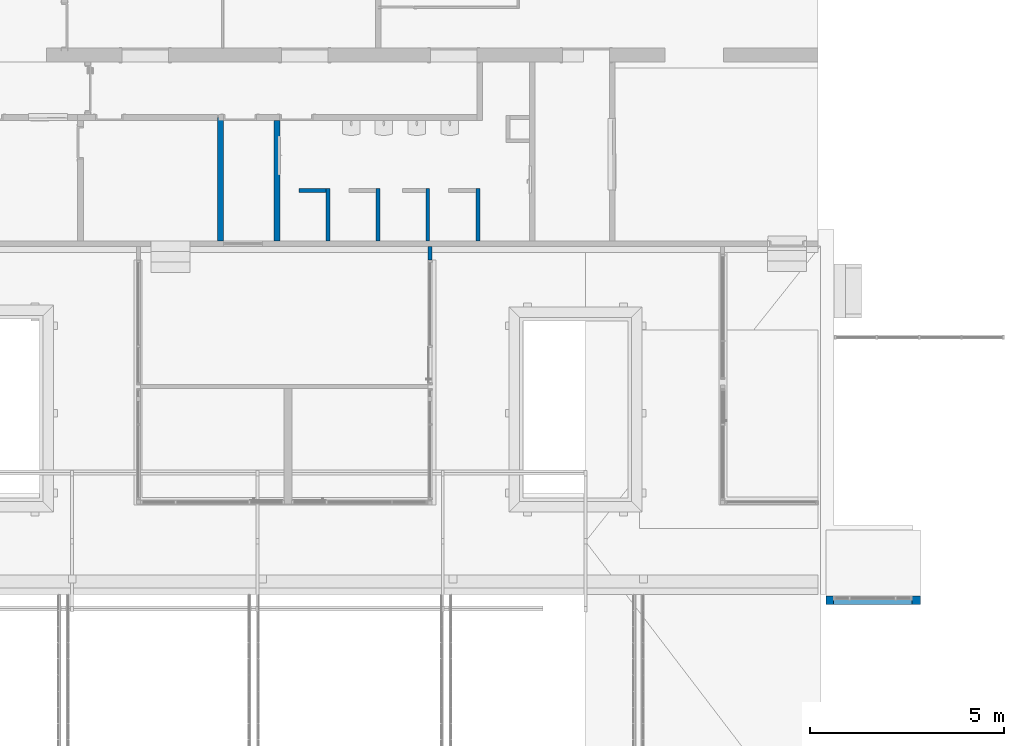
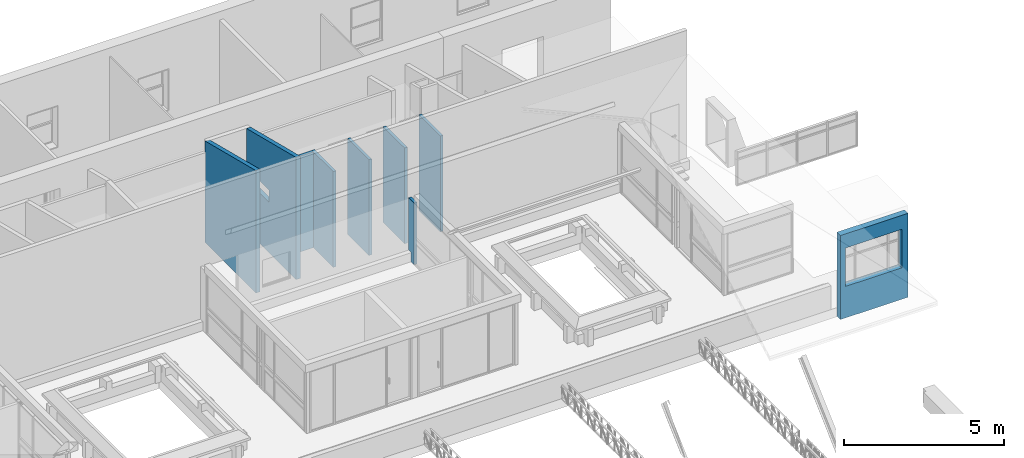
# One storey, part 143 of 153: 9 walls, 2 openings.
"""IFC4 building model written with IfcOpenShell, lengths in metres."""

import ifcopenshell
import ifcopenshell.guid

model = None  # the IFC model being written
_history = None  # IfcOwnerHistory: only IFC2X3 demands one
_inside = {}  # id of a spatial element -> (the spatial element, [elements in it])
_under = {}  # id of a project, library or spatial element -> (it, [spatial elements below it])
_declared = {}  # id of a project -> (the project, [libraries it declares])
_typed = {}  # id of a type object -> (the type object, [elements of that type])
_made_of = {}  # id of a material, layer set ... -> (it, [elements and type objects made of it])


def new_model(schema):
    """Start an empty IFC model of exactly this schema.

    Asked for "IFC4X3", IfcOpenShell would pick the latest addendum, in which some entities
    have other attributes; the version numbers below select the first issue.
    IFC2X3 requires an IfcOwnerHistory on every rooted entity: one is made here for all.
    """
    global model, _history
    if schema == "IFC4X3":
        model = ifcopenshell.file(schema_version=(4, 3, 0, 0))
    else:
        model = ifcopenshell.file(schema=schema)
    _inside.clear()
    _under.clear()
    _declared.clear()
    _typed.clear()
    _made_of.clear()
    _history = None
    if model.schema == "IFC2X3":
        org = make("IfcOrganization", Name="unknown")
        user = make(
            "IfcPersonAndOrganization",
            ThePerson=make("IfcPerson", FamilyName="unknown"),
            TheOrganization=org,
        )
        app = make(
            "IfcApplication",
            ApplicationDeveloper=org,
            Version="unknown",
            ApplicationFullName="unknown",
            ApplicationIdentifier="unknown",
        )
        _history = make(
            "IfcOwnerHistory",
            OwningUser=user,
            OwningApplication=app,
            ChangeAction="ADDED",
            CreationDate=0,
        )
    return model


def make(cls, **values):
    """One entity of the class cls with the attributes given. An attribute that is None is left unset."""
    return model.create_entity(
        cls, **{name: value for name, value in values.items() if value is not None}
    )


def entity(cls, *values):
    """Any entity or typed value of the class cls, its attributes in the order of the schema. None: left unset."""
    e = model.create_entity(cls)
    for i, value in enumerate(values):
        if value is not None:
            e[i] = value
    return e


def rooted(cls, **values):
    """An entity with a GlobalId (a new one), such as an element, a storey or a relation."""
    return make(cls, GlobalId=ifcopenshell.guid.new(), OwnerHistory=_history, **values)


def si_unit(unit_type, name, prefix=None):
    """IfcSIUnit, for example si_unit("LENGTHUNIT", "METRE", prefix="MILLI")."""
    return make("IfcSIUnit", UnitType=unit_type, Prefix=prefix, Name=name)


def converted_unit(unit_type, name, factor, base, dimensions=None, offset=None):
    """IfcConversionBasedUnit, such as the inch: factor (a typed value) times the base unit."""
    return make(
        "IfcConversionBasedUnit"
        if offset is None
        else "IfcConversionBasedUnitWithOffset",
        ConversionOffset=offset,
        Dimensions=None
        if dimensions is None
        else entity("IfcDimensionalExponents", *dimensions),
        UnitType=unit_type,
        Name=name,
        ConversionFactor=make(
            "IfcMeasureWithUnit", ValueComponent=factor, UnitComponent=base
        ),
    )


def derived_unit(unit_type, elements):
    """IfcDerivedUnit: a product of units, each with its exponent."""
    return make(
        "IfcDerivedUnit",
        Elements=[
            make("IfcDerivedUnitElement", Unit=unit, Exponent=power)
            for unit, power in elements
        ],
        UnitType=unit_type,
    )


def assignment(units):
    """IfcUnitAssignment: the units of a project."""
    return None if units is None else make("IfcUnitAssignment", Units=units)


def point(xyz):
    """IfcCartesianPoint."""
    return None if xyz is None else make("IfcCartesianPoint", Coordinates=xyz)


def direction(xyz):
    """IfcDirection."""
    return None if xyz is None else make("IfcDirection", DirectionRatios=xyz)


def frame(location, z_axis=None, x_axis=None):
    """IfcAxis2Placement3D, a coordinate frame: its origin and axes. An axis left out is left unset."""
    return make(
        "IfcAxis2Placement3D",
        Location=point(location),
        Axis=direction(z_axis),
        RefDirection=direction(x_axis),
    )


def origin():
    """The frame at (0, 0, 0) with its axes left unset."""
    return frame((0.0, 0.0, 0.0))


def place(relative_to, where):
    """IfcLocalPlacement: puts the frame where relative to a parent placement (None: the world)."""
    return make(
        "IfcLocalPlacement", PlacementRelTo=relative_to, RelativePlacement=where
    )


def context(
    kind, dimensions, precision=None, world=None, true_north=None, identifier=None
):
    """IfcGeometricRepresentationContext, for example the 3D "Model" context."""
    return make(
        "IfcGeometricRepresentationContext",
        ContextIdentifier=identifier,
        ContextType=kind,
        CoordinateSpaceDimension=dimensions,
        Precision=precision,
        WorldCoordinateSystem=world,
        TrueNorth=true_north,
    )


def subcontext(parent, identifier, kind, view, scale=None):
    """IfcGeometricRepresentationSubContext, for example "Body" below "Model"."""
    return make(
        "IfcGeometricRepresentationSubContext",
        ContextIdentifier=identifier,
        ContextType=kind,
        ParentContext=parent,
        TargetScale=scale,
        TargetView=view,
    )


def project(units=None, contexts=None):
    """IfcProject with its units and contexts."""
    return rooted(
        "IfcProject",
        Name="project",
        RepresentationContexts=contexts,
        UnitsInContext=assignment(units),
    )


def spatial(cls, under=None, at=None, **own):
    """A site, building, storey or space (cls), placed at a placement, below another one or the project."""
    s = rooted(cls, ObjectPlacement=at, **own)
    if under is not None:
        _under.setdefault(under.id(), (under, []))[1].append(s)
    return s


def point_list(points):
    """IfcCartesianPointList2D or 3D."""
    cls = (
        "IfcCartesianPointList2D" if len(points[0]) == 2 else "IfcCartesianPointList3D"
    )
    return make(cls, CoordList=points)


def indexed_curve(points, segments=None, self_intersect=None):
    """IfcIndexedPolyCurve: lines and arcs through numbered points (the first is 1)."""
    return make(
        "IfcIndexedPolyCurve",
        Points=point_list(points),
        Segments=segments,
        SelfIntersect=self_intersect,
    )


def outline(outer, holes=None, kind="AREA"):
    """IfcArbitraryClosedProfileDef: a profile drawn as a closed curve; with holes, ...WithVoids."""
    if holes is None:
        return make("IfcArbitraryClosedProfileDef", ProfileType=kind, OuterCurve=outer)
    return make(
        "IfcArbitraryProfileDefWithVoids",
        ProfileType=kind,
        OuterCurve=outer,
        InnerCurves=holes,
    )


def extrude(swept, where, along, depth):
    """IfcExtrudedAreaSolid: the profile swept, set in the frame where, extruded along a direction by depth."""
    return make(
        "IfcExtrudedAreaSolid",
        SweptArea=swept,
        Position=where,
        ExtrudedDirection=direction(along),
        Depth=depth,
    )


def polygons(points, faces, closed=None, point_numbers=None):
    """IfcPolygonalFaceSet: a face is its outer loop, then its inner loops; points numbered from 1."""
    made = []
    for loops in faces:
        if len(loops) == 1:
            made.append(make("IfcIndexedPolygonalFace", CoordIndex=loops[0]))
        else:
            made.append(
                make(
                    "IfcIndexedPolygonalFaceWithVoids",
                    CoordIndex=loops[0],
                    InnerCoordIndices=loops[1:],
                )
            )
    return make(
        "IfcPolygonalFaceSet",
        Coordinates=point_list(points),
        Closed=closed,
        Faces=made,
        PnIndex=point_numbers,
    )


def shape(context_of_items, identifier, shape_type, items):
    """IfcShapeRepresentation: the items that make up one representation, for example the "Body"."""
    return make(
        "IfcShapeRepresentation",
        ContextOfItems=context_of_items,
        RepresentationIdentifier=identifier,
        RepresentationType=shape_type,
        Items=items,
    )


def material(Name=None, Category=None):
    """IfcMaterial."""
    return make("IfcMaterial", Name=Name, Category=Category)


def made_of(thing, what):
    """Note that an element or type object is made of a material, layer set ...; save() writes the relation."""
    if what is not None:
        _made_of.setdefault(what.id(), (what, []))[1].append(thing)
    return thing


def type_object(cls, material=None, **own):
    """A type object (cls), such as IfcWallType, which elements share."""
    return made_of(rooted(cls, **own), material)


def element(
    cls,
    number,
    at=None,
    inside=None,
    cuts=None,
    type_object=None,
    material=None,
    context=None,
    identifier="Body",
    shape_type=None,
    held_by="IfcProductDefinitionShape",
    body=None,
    shapes=None,
    **own,
):
    """One element of the class cls, such as IfcWall. Its Tag is "e" and its number.

    at: its placement. inside: the storey or other place that contains it. cuts: it is an
    opening in that element (IfcRelVoidsElement). A single representation is given by context,
    identifier, shape_type and body (its items); several are given by shapes. held_by: the class
    of the entity that holds the representations. save() writes the other relations.
    """
    e = rooted(cls, Tag="e%d" % number, ObjectPlacement=at, **own)
    if body is not None:
        shapes = [shape(context, identifier, shape_type, body)]
    if shapes is not None:
        e.Representation = make(held_by, Representations=shapes)
    if inside is not None:
        _inside.setdefault(inside.id(), (inside, []))[1].append(e)
    if cuts is not None:
        rooted(
            "IfcRelVoidsElement", RelatingBuildingElement=cuts, RelatedOpeningElement=e
        )
    if type_object is not None:
        _typed.setdefault(type_object.id(), (type_object, []))[1].append(e)
    return made_of(e, material)


def aggregate(whole, parts):
    """IfcRelAggregates: a whole, such as a stair, and the parts it consists of."""
    return rooted("IfcRelAggregates", RelatingObject=whole, RelatedObjects=parts)


def save(model, path):
    """Write the relations noted so far, then the file.

    IfcRelAggregates (storeys below a building ...), IfcRelContainedInSpatialStructure (elements
    in a storey), IfcRelDefinesByType, IfcRelAssociatesMaterial and IfcRelDeclares: one each for
    every whole, place, type object, material and project.
    """
    for whole, parts in _under.values():
        aggregate(whole, parts)
    for where, things in _inside.values():
        rooted(
            "IfcRelContainedInSpatialStructure",
            RelatedElements=things,
            RelatingStructure=where,
        )
    for kind, things in _typed.values():
        rooted("IfcRelDefinesByType", RelatedObjects=things, RelatingType=kind)
    for what, things in _made_of.values():
        rooted("IfcRelAssociatesMaterial", RelatedObjects=things, RelatingMaterial=what)
    for by, libraries in _declared.values():
        rooted("IfcRelDeclares", RelatingContext=by, RelatedDefinitions=libraries)
    model.write(path)


model = new_model("IFC4")

# Units and contexts
model_context = context("Model", 3, precision=1e-05, world=origin(), true_north=direction((6.123031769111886e-17, 1.0)))
body_context = subcontext(model_context, "Body", "Model", "MODEL_VIEW")
ifc_project = project(units=[si_unit("LENGTHUNIT", "METRE"), si_unit("AREAUNIT", "SQUARE_METRE"), si_unit("VOLUMEUNIT", "CUBIC_METRE"), converted_unit("PLANEANGLEUNIT", "DEGREE", entity("IfcRatioMeasure", 0.017453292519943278), si_unit("PLANEANGLEUNIT", "RADIAN"), dimensions=[0, 0, 0, 0, 0, 0, 0]), si_unit("MASSUNIT", "GRAM", prefix="KILO"), derived_unit("MASSDENSITYUNIT", [(si_unit("MASSUNIT", "GRAM", prefix="KILO"), 1), (si_unit("LENGTHUNIT", "METRE"), -3)]), derived_unit("MOMENTOFINERTIAUNIT", [(si_unit("LENGTHUNIT", "METRE"), 4)]), si_unit("TIMEUNIT", "SECOND"), si_unit("FREQUENCYUNIT", "HERTZ"), si_unit("THERMODYNAMICTEMPERATUREUNIT", "DEGREE_CELSIUS"), derived_unit("THERMALTRANSMITTANCEUNIT", [(si_unit("MASSUNIT", "GRAM", prefix="KILO"), 1), (si_unit("THERMODYNAMICTEMPERATUREUNIT", "KELVIN"), -1), (si_unit("TIMEUNIT", "SECOND"), -3)]), derived_unit("VOLUMETRICFLOWRATEUNIT", [(si_unit("LENGTHUNIT", "METRE"), 3), (si_unit("TIMEUNIT", "SECOND"), -1)]), derived_unit("MASSFLOWRATEUNIT", [(si_unit("MASSUNIT", "GRAM", prefix="KILO"), 1), (si_unit("TIMEUNIT", "SECOND"), -1)]), derived_unit("ROTATIONALFREQUENCYUNIT", [(si_unit("TIMEUNIT", "SECOND"), -1)]), si_unit("ELECTRICCURRENTUNIT", "AMPERE"), si_unit("ELECTRICVOLTAGEUNIT", "VOLT"), si_unit("POWERUNIT", "WATT"), si_unit("FORCEUNIT", "NEWTON", prefix="KILO"), si_unit("ILLUMINANCEUNIT", "LUX"), si_unit("LUMINOUSFLUXUNIT", "LUMEN"), si_unit("LUMINOUSINTENSITYUNIT", "CANDELA"), derived_unit("USERDEFINED", [(si_unit("MASSUNIT", "GRAM", prefix="KILO"), -1), (si_unit("LENGTHUNIT", "METRE"), -2), (si_unit("TIMEUNIT", "SECOND"), 3), (si_unit("LUMINOUSFLUXUNIT", "LUMEN"), 1)]), derived_unit("SOUNDPOWERUNIT", [(si_unit("MASSUNIT", "GRAM", prefix="KILO"), 1), (si_unit("LENGTHUNIT", "METRE"), 2), (si_unit("TIMEUNIT", "SECOND"), -3)]), derived_unit("SOUNDPRESSUREUNIT", [(si_unit("MASSUNIT", "GRAM", prefix="KILO"), 1), (si_unit("LENGTHUNIT", "METRE"), -1), (si_unit("TIMEUNIT", "SECOND"), -2)]), derived_unit("LINEARVELOCITYUNIT", [(si_unit("LENGTHUNIT", "METRE"), 1), (si_unit("TIMEUNIT", "SECOND"), -1)]), si_unit("PRESSUREUNIT", "PASCAL"), derived_unit("USERDEFINED", [(si_unit("LENGTHUNIT", "METRE"), -2), (si_unit("MASSUNIT", "GRAM", prefix="KILO"), 1), (si_unit("TIMEUNIT", "SECOND"), -2)]), derived_unit("LINEARFORCEUNIT", [(si_unit("MASSUNIT", "GRAM", prefix="KILO"), 1), (si_unit("LENGTHUNIT", "METRE"), 1), (si_unit("TIMEUNIT", "SECOND"), -2), (si_unit("LENGTHUNIT", "METRE"), -1)]), derived_unit("PLANARFORCEUNIT", [(si_unit("MASSUNIT", "GRAM", prefix="KILO"), 1), (si_unit("LENGTHUNIT", "METRE"), 1), (si_unit("TIMEUNIT", "SECOND"), -2), (si_unit("LENGTHUNIT", "METRE"), -2)])], contexts=[model_context])

# Site, building, storey
site_placement = place(None, origin())
site = spatial("IfcSite", under=ifc_project, at=site_placement, Name="Superficie", CompositionType="ELEMENT")
building_placement = place(site_placement, origin())
building = spatial("IfcBuilding", under=site, at=building_placement, CompositionType="ELEMENT")
storey_placement = place(building_placement, frame((0.0, 0.0, 3.5999999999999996)))
storey = spatial("IfcBuildingStorey", under=building, at=storey_placement, Name="Nivel 1", CompositionType="ELEMENT", Elevation=3.5999999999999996)

# Walls
ifc_material = material(Name="Muro por defecto", Category="Varios")
wall_type_1 = type_object("IfcWallType", Name="Muro básico:Por defecto - 10 cm", PredefinedType="STANDARD")
wall_1_placement = place(storey_placement, frame((10.596799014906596, 5.276393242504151, 0.0), z_axis=(0.0, 0.0, 1.0), x_axis=(0.0, 1.0, 0.0)))
element("IfcWall", 1, at=wall_1_placement, inside=storey, type_object=wall_type_1, material=ifc_material, Name="Muro básico:Por defecto - 10 cm", ObjectType="Muro básico:Por defecto - 10 cm", PredefinedType="NOTDEFINED", context=body_context, shape_type="Tessellation", body=[
    polygons([(0.0, -0.04999999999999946, 5.414335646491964e-16), (0.19943604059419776, -0.04999999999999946, 5.414335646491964e-16), (0.19943604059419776, -0.04999999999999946, 0.3500000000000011), (0.3494360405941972, -0.04999999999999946, 0.3500000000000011), (0.3494360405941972, -0.04999999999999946, 2.3500000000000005), (0.0, -0.04999999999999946, 2.3500000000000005), (0.0, 0.04999999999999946, 5.414335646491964e-16), (0.0, 0.04999999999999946, 2.3500000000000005), (0.3494360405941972, 0.04999999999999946, 2.3500000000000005), (0.3494360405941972, 0.04999999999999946, 0.3500000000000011), (0.19943604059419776, 0.04999999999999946, 0.3500000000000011), (0.19943604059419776, 0.04999999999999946, 5.414335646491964e-16)], [[[1, 2, 3, 4, 5, 6]], [[7, 8, 9, 10, 11, 12]], [[2, 1, 7, 12]], [[6, 5, 9, 8]], [[1, 6, 8, 7]], [[10, 4, 3, 11]], [[3, 2, 12, 11]], [[5, 4, 10, 9]]], closed=True),
])
wall_2_placement = place(storey_placement, frame((7.96600195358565, 5.775829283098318, 0.5199999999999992), z_axis=(0.0, 0.0, 1.0), x_axis=(0.0, 1.0, 0.0)))
element("IfcWall", 2, at=wall_2_placement, inside=storey, type_object=wall_type_1, material=ifc_material, Name="Muro básico:Por defecto - 10 cm", ObjectType="Muro básico:Por defecto - 10 cm", PredefinedType="NOTDEFINED", context=body_context, shape_type="Tessellation", body=[
    polygons([(3.790034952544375e-14, -0.04999999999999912, 3.6499999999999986), (3.898321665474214e-14, -0.04999999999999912, 5.414335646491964e-16), (1.3400000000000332, -0.04999999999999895, 5.414335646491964e-16), (1.3400000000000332, -0.04999999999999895, 3.6499999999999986), (1.2994405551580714e-14, 0.0499999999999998, 5.414335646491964e-16), (3.790034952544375e-14, 0.0499999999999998, 3.6499999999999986), (1.2400000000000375, 0.050000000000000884, 3.65), (1.3400000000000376, 0.050000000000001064, 3.6499999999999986), (1.3400000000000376, 0.050000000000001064, 5.414335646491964e-16), (1.2400000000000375, 0.050000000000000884, 5.414335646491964e-16)], [[[1, 2, 3, 4]], [[5, 6, 7, 8, 9, 10]], [[1, 4, 8, 7, 6]], [[1, 6, 5, 2]], [[4, 3, 9, 8]], [[3, 2, 5, 10, 9]]], closed=True),
])
wall_3_placement = place(storey_placement, frame((9.256001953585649, 5.775829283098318, 0.5199999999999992), z_axis=(0.0, 0.0, 1.0), x_axis=(0.0, 1.0, 0.0)))
element("IfcWall", 3, at=wall_3_placement, inside=storey, type_object=wall_type_1, material=ifc_material, Name="Muro básico:Por defecto - 10 cm", ObjectType="Muro básico:Por defecto - 10 cm", PredefinedType="NOTDEFINED", context=body_context, shape_type="Tessellation", body=[
    polygons([(3.3568881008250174e-14, -0.04999999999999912, 3.6499999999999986), (3.465174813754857e-14, -0.04999999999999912, 5.414335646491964e-16), (1.3400000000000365, -0.04999999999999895, 5.414335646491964e-16), (1.3400000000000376, -0.04999999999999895, 3.6499999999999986), (1.0828671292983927e-14, 0.050000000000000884, 5.414335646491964e-16), (3.3568881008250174e-14, 0.050000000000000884, 3.6499999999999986), (1.2400000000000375, 0.050000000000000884, 3.65), (1.3400000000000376, 0.04999999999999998, 3.6499999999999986), (1.3400000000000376, 0.04999999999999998, 5.414335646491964e-16), (1.2400000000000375, 0.050000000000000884, 5.414335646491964e-16)], [[[1, 2, 3, 4]], [[5, 6, 7, 8, 9, 10]], [[1, 4, 8, 7, 6]], [[1, 6, 5, 2]], [[4, 3, 9, 8]], [[3, 2, 5, 10, 9]]], closed=True),
])
wall_4_placement = place(storey_placement, frame((10.536001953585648, 5.775829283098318, 0.5199999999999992), z_axis=(0.0, 0.0, 1.0), x_axis=(0.0, 1.0, 0.0)))
element("IfcWall", 4, at=wall_4_placement, inside=storey, type_object=wall_type_1, material=ifc_material, Name="Muro básico:Por defecto - 10 cm", ObjectType="Muro básico:Por defecto - 10 cm", PredefinedType="NOTDEFINED", context=body_context, shape_type="Tessellation", body=[
    polygons([(2.92374124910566e-14, -0.050000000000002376, 3.6499999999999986), (3.0320279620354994e-14, -0.050000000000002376, 5.414335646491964e-16), (1.3400000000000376, -0.050000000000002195, 5.414335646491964e-16), (1.3400000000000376, -0.050000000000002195, 3.6499999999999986), (9.745804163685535e-15, 0.04999999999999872, 5.414335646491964e-16), (2.92374124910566e-14, 0.04999999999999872, 3.6499999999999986), (1.2400000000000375, 0.04999999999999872, 3.65), (1.3400000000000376, 0.04999999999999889, 3.6499999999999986), (1.3400000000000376, 0.04999999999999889, 5.414335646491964e-16), (1.2400000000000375, 0.04999999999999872, 5.414335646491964e-16)], [[[1, 2, 3, 4]], [[5, 6, 7, 8, 9, 10]], [[1, 4, 8, 7, 6]], [[1, 6, 5, 2]], [[4, 3, 9, 8]], [[3, 2, 5, 10, 9]]], closed=True),
])
wall_5_placement = place(storey_placement, frame((11.826001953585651, 5.775829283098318, 0.5199999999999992), z_axis=(0.0, 0.0, 1.0), x_axis=(0.0, 1.0, 0.0)))
element("IfcWall", 5, at=wall_5_placement, inside=storey, type_object=wall_type_1, material=ifc_material, Name="Muro básico:Por defecto - 10 cm", ObjectType="Muro básico:Por defecto - 10 cm", PredefinedType="NOTDEFINED", context=body_context, shape_type="Tessellation", body=[
    polygons([(2.4905943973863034e-14, -0.050000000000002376, 3.6499999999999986), (2.5988811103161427e-14, -0.050000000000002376, 5.414335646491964e-16), (1.3400000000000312, -0.050000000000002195, 5.414335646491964e-16), (1.3400000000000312, -0.050000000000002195, 3.6499999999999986), (8.662937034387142e-15, 0.04999999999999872, 5.414335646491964e-16), (2.4905943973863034e-14, 0.04999999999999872, 3.6499999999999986), (1.240000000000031, 0.04999999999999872, 3.65), (1.3400000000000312, 0.04999999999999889, 3.6499999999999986), (1.3400000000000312, 0.04999999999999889, 5.414335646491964e-16), (1.240000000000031, 0.04999999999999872, 5.414335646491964e-16)], [[[1, 2, 3, 4]], [[5, 6, 7, 8, 9, 10]], [[1, 4, 8, 7, 6]], [[1, 6, 5, 2]], [[4, 3, 9, 8]], [[3, 2, 5, 10, 9]]], closed=True),
])
wall_6_placement = place(storey_placement, frame((7.916001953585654, 7.065829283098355, 0.5199999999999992), z_axis=(0.0, 0.0, 1.0), x_axis=(-1.0, 0.0, 0.0)))
element("IfcWall", 6, at=wall_6_placement, inside=storey, type_object=wall_type_1, material=ifc_material, Name="Muro básico:Por defecto - 10 cm", ObjectType="Muro básico:Por defecto - 10 cm", PredefinedType="NOTDEFINED", context=body_context, shape_type="Tessellation", body=[
    polygons([(3.755059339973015e-15, -0.050000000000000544, 5.414335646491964e-16), (0.6999999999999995, -0.050000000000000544, 5.414335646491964e-16), (0.6999999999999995, -0.050000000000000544, 3.6499999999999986), (3.755059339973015e-15, -0.050000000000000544, 3.6499999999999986), (-4.21713873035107e-16, 0.04999999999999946, 5.414335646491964e-16), (-4.21713873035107e-16, 0.04999999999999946, 3.6499999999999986), (0.6999999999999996, 0.04999999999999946, 3.6499999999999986), (0.6999999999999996, 0.04999999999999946, 5.414335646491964e-16)], [[[1, 2, 3, 4]], [[5, 6, 7, 8]], [[3, 2, 8, 7]], [[4, 3, 7, 6]], [[1, 4, 6, 5]], [[2, 1, 5, 8]]], closed=True),
])

# Wall, opening
wall_type_2 = type_object("IfcWallType", Name="Muro básico:Por defecto - 15 cm 2", PredefinedType="STANDARD")
wall_7_placement = place(storey_placement, frame((6.656001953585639, 5.775829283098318, 0.5200000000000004), z_axis=(0.0, 0.0, 1.0), x_axis=(0.0, 1.0, 0.0)))
wall_7 = element("IfcWall", 7, at=wall_7_placement, inside=storey, type_object=wall_type_2, material=ifc_material, Name="Muro básico:Por defecto - 15 cm 2", ObjectType="Muro básico:Por defecto - 15 cm 2", PredefinedType="NOTDEFINED", context=body_context, shape_type="Tessellation", body=[
    polygons([(3.100000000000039, -0.07499999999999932, 3.88212956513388), (4.2231818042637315e-14, -0.07499999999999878, 4.655046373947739), (4.2231818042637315e-14, -0.07499999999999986, -5.414335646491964e-16), (3.100000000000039, -0.07499999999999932, -5.414335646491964e-16), (1.6950000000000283, -0.07500000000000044, 1.93), (1.6950000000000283, -0.07500000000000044, 2.379999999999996), (2.6950000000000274, -0.07499999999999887, 2.379999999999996), (2.6950000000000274, -0.07499999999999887, 1.93), (4.2231818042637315e-14, 0.07500000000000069, 4.655046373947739), (3.1000000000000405, 0.07500000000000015, 3.88212956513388), (3.1000000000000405, 0.07500000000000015, -5.414335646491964e-16), (1.4077272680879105e-14, 0.07500000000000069, -5.414335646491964e-16), (1.6950000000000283, 0.07500000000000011, 2.379999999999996), (1.6950000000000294, 0.07500000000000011, 1.93), (2.6950000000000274, 0.0750000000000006, 1.93), (2.6950000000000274, 0.0750000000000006, 2.379999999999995), (3.100000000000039, -0.06000000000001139, -5.414335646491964e-16)], [[[1, 2, 3, 4], [5, 6, 7, 8]], [[9, 10, 11, 12], [13, 14, 15, 16]], [[2, 1, 10, 9]], [[2, 9, 12, 3]], [[1, 4, 17, 11, 10]], [[5, 14, 13, 6]], [[6, 13, 16, 7]], [[14, 5, 8, 15]], [[4, 3, 12, 11, 17]], [[15, 8, 7, 16]]], closed=True),
])
opening_1_placement = place(wall_7_placement, frame((1.6950000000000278, -0.07500000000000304, 1.93)))
element("IfcOpeningElement", 8, at=opening_1_placement, cuts=wall_7, Name="Ventana basculante:45 x 100mm 4:1", PredefinedType="OPENING", context=body_context, shape_type="SweptSolid", body=[
    extrude(outline(indexed_curve([(0.0, 2.5738352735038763e-33), (0.44999999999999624, 2.5738352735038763e-33), (0.4499999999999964, 0.9999999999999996), (0.0, 0.9999999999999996), (0.0, 2.5738352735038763e-33)], self_intersect=False)), frame((0.0, 0.0, 0.0), z_axis=(0.0, 1.0, 0.0), x_axis=(0.0, 0.0, 1.0)), (0.0, 0.0, 1.0), 0.14999999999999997),
])

# Wall
wall_8_placement = place(storey_placement, frame((5.206001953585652, 8.950829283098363, 0.5199999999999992), z_axis=(0.0, 0.0, 1.0), x_axis=(0.0, -1.0, 0.0)))
element("IfcWall", 9, at=wall_8_placement, inside=storey, type_object=wall_type_2, material=ifc_material, Name="Muro básico:Por defecto - 15 cm 2", ObjectType="Muro básico:Por defecto - 15 cm 2", PredefinedType="NOTDEFINED", context=body_context, shape_type="Tessellation", body=[
    polygons([(0.0, -0.0749999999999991, 5.414335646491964e-16), (3.1750000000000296, -0.07499999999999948, 5.414335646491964e-16), (3.1749999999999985, -0.07499999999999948, 4.662739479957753), (0.0, -0.0749999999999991, 3.8678478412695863), (0.0, 0.07500000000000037, 5.414335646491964e-16), (0.0, 0.07500000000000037, 3.8678478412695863), (3.1749999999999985, 0.07499999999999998, 4.662739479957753), (3.174999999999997, 0.07499999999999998, 1.2800000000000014), (3.174999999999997, 0.07499999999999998, 0.2800000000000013), (3.174999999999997, 0.07499999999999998, 5.414335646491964e-16)], [[[1, 2, 3, 4]], [[5, 6, 7, 8, 9, 10]], [[4, 3, 7, 6]], [[1, 4, 6, 5]], [[2, 10, 9, 8, 7, 3]], [[2, 1, 5, 10]]], closed=True),
])

# Wall, opening
wall_type_3 = type_object("IfcWallType", Name="Muro básico:Por defecto - 22 cm 2", PredefinedType="STANDARD")
wall_9_placement = place(storey_placement, frame((20.78679901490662, -3.474170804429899, -0.30000000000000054)))
wall_9 = element("IfcWall", 10, at=wall_9_placement, inside=storey, type_object=wall_type_3, material=ifc_material, Name="Muro básico:Por defecto - 22 cm 2", ObjectType="Muro básico:Por defecto - 22 cm 2", PredefinedType="NOTDEFINED", context=body_context, shape_type="Tessellation", body=[
    polygons([(-1.1781643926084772e-15, -0.1099999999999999, 0.0), (2.4349999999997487, -0.11000000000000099, 5.414335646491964e-16), (2.4349999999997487, -0.11000000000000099, 3.2), (-1.1781643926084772e-15, -0.1099999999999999, 3.2), (0.18920293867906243, -0.1099999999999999, 2.6657728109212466), (2.2142029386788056, -0.11000000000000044, 2.6657728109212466), (2.2142029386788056, -0.11000000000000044, 1.2000000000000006), (0.18920293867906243, -0.1099999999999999, 1.2000000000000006), (2.434999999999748, 0.1099999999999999, 5.414335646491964e-16), (-1.9034571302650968e-15, 0.1099999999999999, 0.0), (-1.9034571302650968e-15, 0.1099999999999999, 3.2), (2.2349999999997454, 0.10999999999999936, 3.2), (2.4349999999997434, 0.1099999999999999, 3.2), (2.214202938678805, 0.10999999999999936, 2.6657728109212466), (0.1892029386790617, 0.1099999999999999, 2.6657728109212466), (0.1892029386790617, 0.1099999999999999, 1.2000000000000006), (2.214202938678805, 0.10999999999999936, 1.2000000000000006)], [[[1, 2, 3, 4], [5, 6, 7, 8]], [[9, 10, 11, 12, 13], [14, 15, 16, 17]], [[2, 1, 10, 9]], [[1, 4, 11, 10]], [[4, 3, 13, 12, 11]], [[5, 15, 14, 6]], [[7, 17, 16, 8]], [[15, 5, 8, 16]], [[6, 14, 17, 7]], [[3, 2, 9, 13]]], closed=True),
])
opening_2_placement = place(wall_9_placement, origin())
element("IfcOpeningElement", 11, at=opening_2_placement, cuts=wall_9, Name="Muro básico:Por defecto - 22 cm 2", PredefinedType="OPENING", context=body_context, shape_type="SweptSolid", body=[
    extrude(outline(indexed_curve([(-0.7328864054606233, -1.0124999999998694), (0.7328864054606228, -1.0124999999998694), (0.7328864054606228, 1.0124999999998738), (-0.7328864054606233, 1.0124999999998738), (-0.7328864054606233, -1.0124999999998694)], self_intersect=False)), frame((1.2017029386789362, -0.11000000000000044, 1.9328864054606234), z_axis=(0.0, 1.0, 0.0), x_axis=(0.0, 0.0, -1.0)), (0.0, 0.0, 1.0), 0.2199999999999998),
])

save(model, "model.ifc")
